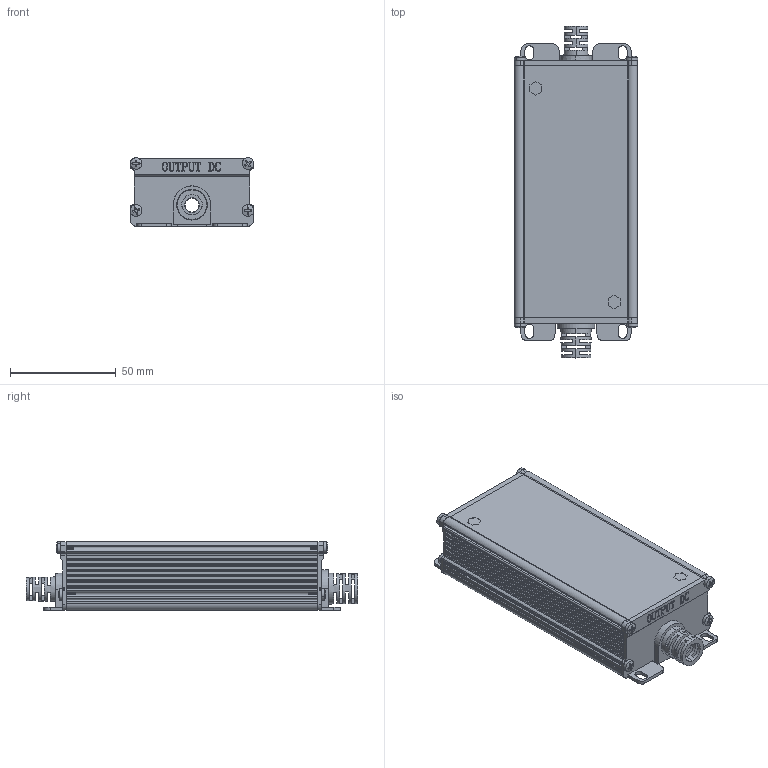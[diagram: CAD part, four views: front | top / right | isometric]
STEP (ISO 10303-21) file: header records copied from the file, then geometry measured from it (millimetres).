
FILE_DESCRIPTION (( 'STEP AP203' ), '1' );
FILE_NAME ('CYX-75-12丨24P 3D图.STEP', '2022-07-18T08:54:43', ( '微软用户' ), ( '微软中国' ), 'SwSTEP 2.0', 'SolidWorks 2017', '' );
FILE_SCHEMA (( 'CONFIG_CONTROL_DESIGN' ));
Products named in the file (1): CYX-75-12ح24P 3Dͼ
Bounding box: 58.3 x 156.8 x 32.5 mm (x, y, z)
Volume: 44871.8 mm3; surface area: 66955.9 mm2
Topology: 14 solids, 14 shells, 2179 faces, 5542 edges, 3410 vertices
Faces by surface type: plane 751, cylinder 712, cone 581, bspline 119, sphere 16
Entity records: 71313 total; most frequent: CARTESIAN_POINT 18289, DIRECTION 11258, ORIENTED_EDGE 11076, EDGE_CURVE 5538, AXIS2_PLACEMENT_3D 4007, VERTEX_POINT 3410, LINE 3244, VECTOR 3244
